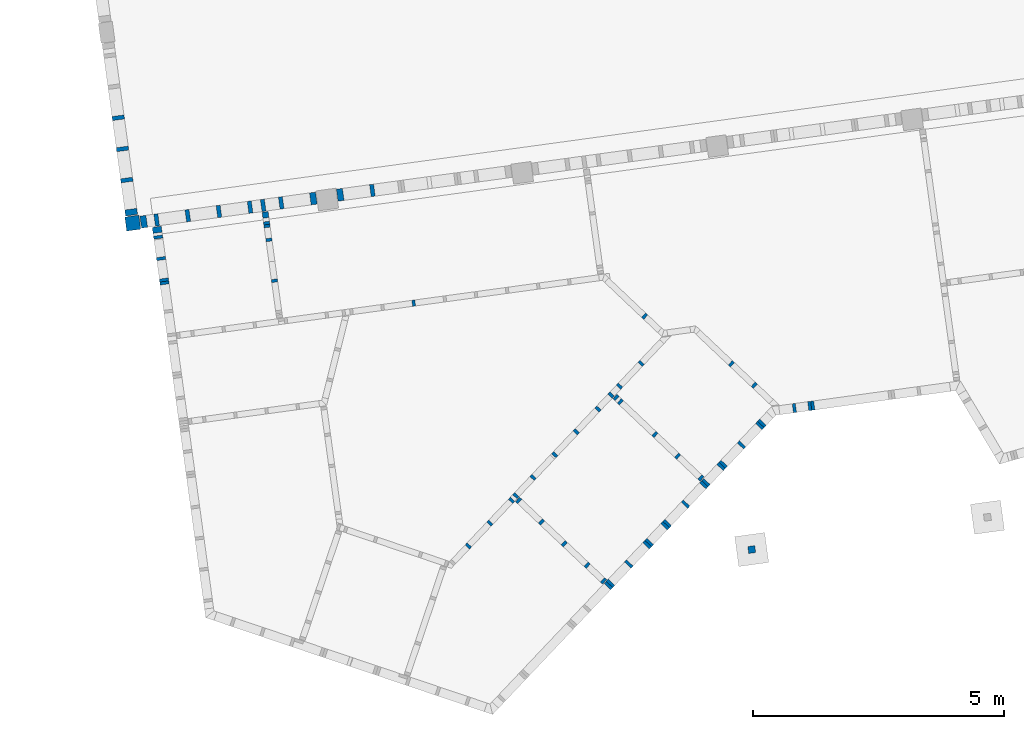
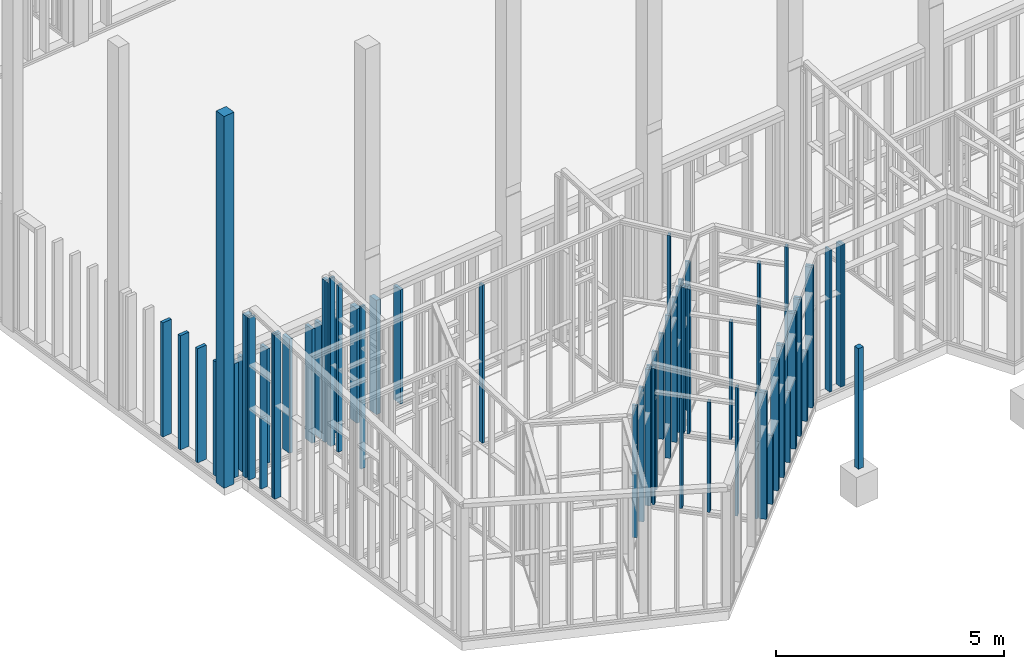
# One storey, part 2 of 24: 69 columns.
"""IFC2X3 building model written with IfcOpenShell, lengths in metres."""

from ifc_helpers import new_model, entity, si_unit, converted_unit, derived_unit, money_unit, direction, frame, origin_with_axes, origin_2d_with_axis, place, context, subcontext, project, spatial, rectangle, extrude, material, type_object, element, save


model = new_model("IFC2X3")

# Units and contexts
model_context = context("Model", 3, precision=1e-05, world=origin_with_axes(), true_north=direction((0.0, 1.0)))
body_context = subcontext(model_context, "Body", "Model", "MODEL_VIEW")
ifc_project = project(units=[si_unit("LENGTHUNIT", "METRE"), si_unit("AREAUNIT", "SQUARE_METRE"), si_unit("VOLUMEUNIT", "CUBIC_METRE"), converted_unit("PLANEANGLEUNIT", "DEGREE", entity("IfcPlaneAngleMeasure", 0.0174532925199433), si_unit("PLANEANGLEUNIT", "RADIAN"), dimensions=[0, 0, 0, 0, 0, 0, 0]), money_unit("EUR"), converted_unit("TIMEUNIT", "Year", entity("IfcTimeMeasure", 31557600.0), si_unit("TIMEUNIT", "SECOND"), dimensions=[0, 0, 1, 0, 0, 0, 0]), si_unit("MASSUNIT", "GRAM", prefix="KILO"), si_unit("THERMODYNAMICTEMPERATUREUNIT", "DEGREE_CELSIUS"), si_unit("LUMINOUSINTENSITYUNIT", "LUMEN"), si_unit("ENERGYUNIT", "JOULE", prefix="MEGA"), derived_unit("THERMALCONDUCTANCEUNIT", [(si_unit("POWERUNIT", "WATT"), 1), (si_unit("LENGTHUNIT", "METRE"), -1), (si_unit("THERMODYNAMICTEMPERATUREUNIT", "KELVIN"), -1)]), derived_unit("SPECIFICHEATCAPACITYUNIT", [(si_unit("ENERGYUNIT", "JOULE"), 1), (si_unit("MASSUNIT", "GRAM", prefix="KILO"), -1), (si_unit("THERMODYNAMICTEMPERATUREUNIT", "KELVIN"), -1)]), derived_unit("MASSDENSITYUNIT", [(si_unit("MASSUNIT", "GRAM", prefix="KILO"), 1), (si_unit("VOLUMEUNIT", "CUBIC_METRE"), -1)])], contexts=[model_context])

# Site, building, storey
site_placement = place(None, origin_with_axes())
site = spatial("IfcSite", under=ifc_project, at=site_placement, Name="Gelände", CompositionType="ELEMENT")
building_placement = place(site_placement, origin_with_axes())
building = spatial("IfcBuilding", under=site, at=building_placement, Name="Gebäude", CompositionType="ELEMENT")
storey_placement = place(building_placement, origin_with_axes())
storey = spatial("IfcBuildingStorey", under=building, at=storey_placement, Name="EG", CompositionType="ELEMENT", Elevation=0.0)

# Columns
ifc_material_1 = material(Name="Holz, Bauholz")
column_type_1 = type_object("IfcColumnType", Name="Holz, Bauholz 140 x 140", PredefinedType="NOTDEFINED")
column_1_placement = place(storey_placement, frame((98.90209812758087, -157.5066318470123, -0.09999999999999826), z_axis=(0.0, 0.0, 1.0), x_axis=(0.9907484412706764, 0.135711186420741, 0.0)))
element("IfcColumn", 1, at=column_1_placement, inside=storey, type_object=column_type_1, material=ifc_material_1, Name="Stütze-010", context=body_context, shape_type="SweptSolid", body=[
    extrude(rectangle(XDim=0.14, YDim=0.14, at=origin_2d_with_axis()), frame((0.0, 0.0, 0.0), z_axis=(0.0, 0.0, -1.0), x_axis=(-1.0, 0.0, 0.0)), (0.0, 0.0, -1.0), 3.231537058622),
])
ifc_material_2 = material(Name="Bauholz")
column_type_2 = type_object("IfcColumnType", Name="Bauholz 80 x 240", PredefinedType="NOTDEFINED")
for number, where, z_axis, x_axis in (
    (2, (86.30412056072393, -148.919752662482, -0.02800000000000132), (0.0, 0.0, 1.0), (0.1357111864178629, -0.9907484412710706, 0.0)),
    (3, (86.3889400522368, -149.5389704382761, -0.02800000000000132), (0.0, 0.0, 1.0), (0.1357111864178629, -0.9907484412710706, 0.0)),
    (4, (86.47375954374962, -150.1581882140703, -0.02800000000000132), (0.0, 0.0, 1.0), (0.1357111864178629, -0.9907484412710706, 0.0)),
):
    element("IfcColumn", number, at=place(storey_placement, frame(where, z_axis=z_axis, x_axis=x_axis)), inside=storey, type_object=column_type_2, material=ifc_material_2, Name="Stütze-018", context=body_context, shape_type="SweptSolid", body=[
        extrude(rectangle(XDim=0.08, YDim=0.24, at=origin_2d_with_axis()), origin_with_axes(), (0.0, 0.0, 1.0), 3.059999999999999),
    ])
for number, where, z_axis, x_axis in (
    (5, (88.30668905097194, -150.7822123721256, -0.02800000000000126), (0.0, 0.0, 1.0), (0.9907484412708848, 0.1357111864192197, 0.0)),
    (6, (87.68747127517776, -150.8670318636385, -0.02800000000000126), (0.0, 0.0, 1.0), (0.9907484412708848, 0.1357111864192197, 0.0)),
    (7, (88.92590682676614, -150.6973928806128, -0.02800000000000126), (0.0, 0.0, 1.0), (0.9907484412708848, 0.1357111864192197, 0.0)),
    (8, (89.18660687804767, -150.6616825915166, -0.0280000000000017), (0.0, 0.0, 1.0), (0.9907484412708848, 0.1357111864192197, 0.0)),
    (9, (89.54512460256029, -150.6125733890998, -0.02800000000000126), (0.0, 0.0, 1.0), (0.9907484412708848, 0.1357111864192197, 0.0)),
    (10, (91.35819567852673, -150.3642217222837, -0.02800000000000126), (0.0, 0.0, 1.0), (0.9907484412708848, 0.1357111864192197, 0.0)),
    (11, (87.06825349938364, -150.9518513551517, -0.0280000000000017), (0.0, 0.0, 1.0), (0.9907484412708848, 0.1357111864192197, 0.0)),
):
    element("IfcColumn", number, at=place(storey_placement, frame(where, z_axis=z_axis, x_axis=x_axis)), inside=storey, type_object=column_type_2, material=ifc_material_2, Name="Stütze-018", context=body_context, shape_type="SweptSolid", body=[
        extrude(rectangle(XDim=0.08, YDim=0.24, at=origin_2d_with_axis()), origin_with_axes(), (0.0, 0.0, 1.0), 3.059999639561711),
    ])
column_type_3 = type_object("IfcColumnType", Name="Bauholz 60 x 120", PredefinedType="NOTDEFINED")
column_2_placement = place(storey_placement, frame((89.25500644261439, -151.0136562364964, -0.04300000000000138), z_axis=(0.0, 0.0, 1.0), x_axis=(-0.1357111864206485, 0.9907484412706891, 0.0)))
element("IfcColumn", 12, at=column_2_placement, inside=storey, type_object=column_type_3, material=ifc_material_2, Name="Stütze-018", context=body_context, shape_type="SweptSolid", body=[
    extrude(rectangle(XDim=0.06, YDim=0.12, at=origin_2d_with_axis()), frame((0.0, 0.0, 0.0), z_axis=(0.0, 0.0, -1.0), x_axis=(-1.0, 0.0, 0.0)), (0.0, 0.0, -1.0), 4.33964893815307),
])
column_3_placement = place(storey_placement, frame((96.77352405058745, -152.8655992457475, -0.04300000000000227), z_axis=(0.0, 0.0, 1.0), x_axis=(-0.7262463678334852, 0.6874345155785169, 0.0)))
element("IfcColumn", 13, at=column_3_placement, inside=storey, type_object=column_type_3, material=ifc_material_2, Name="Stütze-018", context=body_context, shape_type="SweptSolid", body=[
    extrude(rectangle(XDim=0.06, YDim=0.12, at=origin_2d_with_axis()), frame((0.0, 0.0, 0.0), z_axis=(0.0, 0.0, -1.0), x_axis=(-1.0, 0.0, 0.0)), (0.0, 0.0, -1.0), 4.114087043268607),
])
column_4_placement = place(storey_placement, frame((98.49820390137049, -153.8116723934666, -0.0430000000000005), z_axis=(0.0, 0.0, 1.0), x_axis=(-0.7262467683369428, 0.6874340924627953, 0.0)))
element("IfcColumn", 14, at=column_4_placement, inside=storey, type_object=column_type_3, material=ifc_material_2, Name="Stütze-018", context=body_context, shape_type="SweptSolid", body=[
    extrude(rectangle(XDim=0.06, YDim=0.12, at=origin_2d_with_axis()), frame((0.0, 0.0, 0.0), z_axis=(0.0, 0.0, -1.0), x_axis=(-1.0, 0.0, 0.0)), (0.0, 0.0, -1.0), 3.337346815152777),
])
column_5_placement = place(storey_placement, frame((98.95210813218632, -154.2413187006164, -0.0430000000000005), z_axis=(0.0, 0.0, 1.0), x_axis=(-0.7262467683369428, 0.6874340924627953, 0.0)))
element("IfcColumn", 15, at=column_5_placement, inside=storey, type_object=column_type_3, material=ifc_material_2, Name="Stütze-018", context=body_context, shape_type="SweptSolid", body=[
    extrude(rectangle(XDim=0.06, YDim=0.12, at=origin_2d_with_axis()), frame((0.0, 0.0, 0.0), z_axis=(0.0, 0.0, -1.0), x_axis=(-1.0, 0.0, 0.0)), (0.0, 0.0, -1.0), 3.880978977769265),
])
column_6_placement = place(storey_placement, frame((92.18023482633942, -152.6065400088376, -0.04300000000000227), z_axis=(0.0, 0.0, 1.0), x_axis=(-0.9907484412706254, -0.1357111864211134, 0.0)))
element("IfcColumn", 16, at=column_6_placement, inside=storey, type_object=column_type_3, material=ifc_material_2, Name="Stütze-018", context=body_context, shape_type="SweptSolid", body=[
    extrude(rectangle(XDim=0.06, YDim=0.12, at=origin_2d_with_axis()), frame((0.0, 0.0, 0.0), z_axis=(0.0, 0.0, -1.0), x_axis=(-1.0, 0.0, 0.0)), (0.0, 0.0, -1.0), 4.235197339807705),
])
column_7_placement = place(storey_placement, frame((89.30082705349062, -151.3481658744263, -0.04300000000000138), z_axis=(0.0, 0.0, 1.0), x_axis=(-0.1357111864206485, 0.9907484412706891, 0.0)))
element("IfcColumn", 17, at=column_7_placement, inside=storey, type_object=column_type_3, material=ifc_material_2, Name="Stütze-018", context=body_context, shape_type="SweptSolid", body=[
    extrude(rectangle(XDim=0.06, YDim=0.12, at=origin_2d_with_axis()), frame((0.0, 0.0, 0.0), z_axis=(0.0, 0.0, -1.0), x_axis=(-1.0, 0.0, 0.0)), (0.0, 0.0, -1.0), 4.468369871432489),
])
column_8_placement = place(storey_placement, frame((89.41211022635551, -152.160579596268, -0.04300000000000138), z_axis=(0.0, 0.0, 1.0), x_axis=(-0.1357111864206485, 0.9907484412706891, 0.0)))
element("IfcColumn", 18, at=column_8_placement, inside=storey, type_object=column_type_3, material=ifc_material_2, Name="Stütze-018", context=body_context, shape_type="SweptSolid", body=[
    extrude(rectangle(XDim=0.06, YDim=0.12, at=origin_2d_with_axis()), frame((0.0, 0.0, 0.0), z_axis=(0.0, 0.0, -1.0), x_axis=(-1.0, 0.0, 0.0)), (0.0, 0.0, -1.0), 4.353126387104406),
])
column_9_placement = place(storey_placement, frame((96.27324084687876, -154.2578095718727, -0.04300000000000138), z_axis=(0.0, 0.0, 1.0), x_axis=(-0.6874340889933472, -0.7262467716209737, 0.0)))
element("IfcColumn", 19, at=column_9_placement, inside=storey, type_object=column_type_3, material=ifc_material_2, Name="Stütze-018", context=body_context, shape_type="SweptSolid", body=[
    extrude(rectangle(XDim=0.06, YDim=0.12, at=origin_2d_with_axis()), frame((0.0, 0.0, 0.0), z_axis=(0.0, 0.0, -1.0), x_axis=(-1.0, 0.0, 0.0)), (0.0, 0.0, -1.0), 3.929384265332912),
])
column_10_placement = place(storey_placement, frame((96.10539146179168, -154.4351357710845, -0.04300000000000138), z_axis=(0.0, 0.0, 1.0), x_axis=(-0.6874340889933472, -0.7262467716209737, 0.0)))
element("IfcColumn", 20, at=column_10_placement, inside=storey, type_object=column_type_3, material=ifc_material_2, Name="Stütze-018", context=body_context, shape_type="SweptSolid", body=[
    extrude(rectangle(XDim=0.06, YDim=0.12, at=origin_2d_with_axis()), frame((0.0, 0.0, 0.0), z_axis=(0.0, 0.0, -1.0), x_axis=(-1.0, 0.0, 0.0)), (0.0, 0.0, -1.0), 3.907894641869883),
])
column_11_placement = place(storey_placement, frame((95.84359454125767, -154.7117138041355, -0.04300000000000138), z_axis=(0.0, 0.0, 1.0), x_axis=(-0.6874340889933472, -0.7262467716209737, 0.0)))
element("IfcColumn", 21, at=column_11_placement, inside=storey, type_object=column_type_3, material=ifc_material_2, Name="Stütze-018", context=body_context, shape_type="SweptSolid", body=[
    extrude(rectangle(XDim=0.06, YDim=0.12, at=origin_2d_with_axis()), frame((0.0, 0.0, 0.0), z_axis=(0.0, 0.0, -1.0), x_axis=(-1.0, 0.0, 0.0)), (0.0, 0.0, -1.0), 3.874376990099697),
])
column_12_placement = place(storey_placement, frame((94.98430193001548, -155.6195222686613, 0.8919999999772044), z_axis=(0.0, 0.0, 1.0), x_axis=(-0.6874340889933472, -0.7262467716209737, 0.0)))
element("IfcColumn", 22, at=column_12_placement, inside=storey, type_object=column_type_3, material=ifc_material_2, Name="Stütze-018", context=body_context, shape_type="SweptSolid", body=[
    extrude(rectangle(XDim=0.06, YDim=0.12, at=origin_2d_with_axis()), frame((0.0, 0.0, 0.0), z_axis=(0.0, 0.0, -1.0), x_axis=(-1.0, 0.0, 0.0)), (0.0, 0.0, -1.0), 2.82936243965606),
])
column_13_placement = place(storey_placement, frame((94.55465562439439, -156.0734265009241, -0.04300000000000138), z_axis=(0.0, 0.0, 1.0), x_axis=(-0.6874340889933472, -0.7262467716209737, 0.0)))
element("IfcColumn", 23, at=column_13_placement, inside=storey, type_object=column_type_3, material=ifc_material_2, Name="Stütze-018", context=body_context, shape_type="SweptSolid", body=[
    extrude(rectangle(XDim=0.06, YDim=0.12, at=origin_2d_with_axis()), frame((0.0, 0.0, 0.0), z_axis=(0.0, 0.0, -1.0), x_axis=(-1.0, 0.0, 0.0)), (0.0, 0.0, -1.0), 3.709355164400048),
])
column_14_placement = place(storey_placement, frame((95.41394823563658, -155.1656180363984, -0.04300000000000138), z_axis=(0.0, 0.0, 1.0), x_axis=(-0.6874340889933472, -0.7262467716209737, 0.0)))
element("IfcColumn", 24, at=column_14_placement, inside=storey, type_object=column_type_3, material=ifc_material_2, Name="Stütze-018", context=body_context, shape_type="SweptSolid", body=[
    extrude(rectangle(XDim=0.06, YDim=0.12, at=origin_2d_with_axis()), frame((0.0, 0.0, 0.0), z_axis=(0.0, 0.0, -1.0), x_axis=(-1.0, 0.0, 0.0)), (0.0, 0.0, -1.0), 3.81936971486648),
])
column_15_placement = place(storey_placement, frame((94.1250093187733, -156.527330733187, -0.04300000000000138), z_axis=(0.0, 0.0, 1.0), x_axis=(-0.6874340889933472, -0.7262467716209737, 0.0)))
element("IfcColumn", 25, at=column_15_placement, inside=storey, type_object=column_type_3, material=ifc_material_2, Name="Stütze-018", context=body_context, shape_type="SweptSolid", body=[
    extrude(rectangle(XDim=0.06, YDim=0.12, at=origin_2d_with_axis()), frame((0.0, 0.0, 0.0), z_axis=(0.0, 0.0, -1.0), x_axis=(-1.0, 0.0, 0.0)), (0.0, 0.0, -1.0), 3.654347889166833),
])
column_16_placement = place(storey_placement, frame((96.70288715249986, -153.8039053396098, -0.04300000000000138), z_axis=(0.0, 0.0, 1.0), x_axis=(-0.6874340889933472, -0.7262467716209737, 0.0)))
element("IfcColumn", 26, at=column_16_placement, inside=storey, type_object=column_type_3, material=ifc_material_2, Name="Stütze-018", context=body_context, shape_type="SweptSolid", body=[
    extrude(rectangle(XDim=0.06, YDim=0.12, at=origin_2d_with_axis()), frame((0.0, 0.0, 0.0), z_axis=(0.0, 0.0, -1.0), x_axis=(-1.0, 0.0, 0.0)), (0.0, 0.0, -1.0), 3.98439154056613),
])
column_17_placement = place(storey_placement, frame((93.6953630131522, -156.9812349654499, -0.04300000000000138), z_axis=(0.0, 0.0, 1.0), x_axis=(-0.6874340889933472, -0.7262467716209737, 0.0)))
element("IfcColumn", 27, at=column_17_placement, inside=storey, type_object=column_type_3, material=ifc_material_2, Name="Stütze-018", context=body_context, shape_type="SweptSolid", body=[
    extrude(rectangle(XDim=0.06, YDim=0.12, at=origin_2d_with_axis()), frame((0.0, 0.0, 0.0), z_axis=(0.0, 0.0, -1.0), x_axis=(-1.0, 0.0, 0.0)), (0.0, 0.0, -1.0), 3.599340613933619),
])
column_18_placement = place(storey_placement, frame((93.26571670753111, -157.4351391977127, -0.04300000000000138), z_axis=(0.0, 0.0, 1.0), x_axis=(-0.6874340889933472, -0.7262467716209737, 0.0)))
element("IfcColumn", 28, at=column_18_placement, inside=storey, type_object=column_type_3, material=ifc_material_2, Name="Stütze-018", context=body_context, shape_type="SweptSolid", body=[
    extrude(rectangle(XDim=0.06, YDim=0.12, at=origin_2d_with_axis()), frame((0.0, 0.0, 0.0), z_axis=(0.0, 0.0, -1.0), x_axis=(-1.0, 0.0, 0.0)), (0.0, 0.0, -1.0), 3.544333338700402),
])
column_19_placement = place(storey_placement, frame((94.26714347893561, -156.529913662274, -0.0430000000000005), z_axis=(0.0, 0.0, 1.0), x_axis=(-0.7262467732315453, 0.6874340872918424, 0.0)))
element("IfcColumn", 29, at=column_19_placement, inside=storey, type_object=column_type_3, material=ifc_material_2, Name="Stütze-018", context=body_context, shape_type="SweptSolid", body=[
    extrude(rectangle(XDim=0.06, YDim=0.12, at=origin_2d_with_axis()), frame((0.0, 0.0, 0.0), z_axis=(0.0, 0.0, -1.0), x_axis=(-1.0, 0.0, 0.0)), (0.0, 0.0, -1.0), 3.651669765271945),
])
column_20_placement = place(storey_placement, frame((94.72104772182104, -156.9595599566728, -0.0430000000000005), z_axis=(0.0, 0.0, 1.0), x_axis=(-0.7262467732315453, 0.6874340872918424, 0.0)))
element("IfcColumn", 30, at=column_20_placement, inside=storey, type_object=column_type_3, material=ifc_material_2, Name="Stütze-018", context=body_context, shape_type="SweptSolid", body=[
    extrude(rectangle(XDim=0.06, YDim=0.12, at=origin_2d_with_axis()), frame((0.0, 0.0, 0.0), z_axis=(0.0, 0.0, -1.0), x_axis=(-1.0, 0.0, 0.0)), (0.0, 0.0, -1.0), 2.957614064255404),
])
column_21_placement = place(storey_placement, frame((95.62885618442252, -157.8188525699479, -0.0430000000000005), z_axis=(0.0, 0.0, 1.0), x_axis=(-0.7262467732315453, 0.6874340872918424, 0.0)))
element("IfcColumn", 31, at=column_21_placement, inside=storey, type_object=column_type_3, material=ifc_material_2, Name="Stütze-018", context=body_context, shape_type="SweptSolid", body=[
    extrude(rectangle(XDim=0.06, YDim=0.12, at=origin_2d_with_axis()), frame((0.0, 0.0, 0.0), z_axis=(0.0, 0.0, -1.0), x_axis=(-1.0, 0.0, 0.0)), (0.0, 0.0, -1.0), 3.44622522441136),
])
column_22_placement = place(storey_placement, frame((95.95560735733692, -158.1281412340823, -0.0430000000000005), z_axis=(0.0, 0.0, 1.0), x_axis=(-0.7262467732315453, 0.6874340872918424, 0.0)))
element("IfcColumn", 32, at=column_22_placement, inside=storey, type_object=column_type_3, material=ifc_material_2, Name="Stütze-018", context=body_context, shape_type="SweptSolid", body=[
    extrude(rectangle(XDim=0.06, YDim=0.12, at=origin_2d_with_axis()), frame((0.0, 0.0, 0.0), z_axis=(0.0, 0.0, -1.0), x_axis=(-1.0, 0.0, 0.0)), (0.0, 0.0, -1.0), 3.396927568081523),
])
column_23_placement = place(storey_placement, frame((95.17495196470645, -157.3892062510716, -0.0430000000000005), z_axis=(0.0, 0.0, 1.0), x_axis=(-0.7262467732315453, 0.6874340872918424, 0.0)))
element("IfcColumn", 33, at=column_23_placement, inside=storey, type_object=column_type_3, material=ifc_material_2, Name="Stütze-018", context=body_context, shape_type="SweptSolid", body=[
    extrude(rectangle(XDim=0.06, YDim=0.12, at=origin_2d_with_axis()), frame((0.0, 0.0, 0.0), z_axis=(0.0, 0.0, -1.0), x_axis=(-1.0, 0.0, 0.0)), (0.0, 0.0, -1.0), 2.957614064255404),
])
column_24_placement = place(storey_placement, frame((96.20227045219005, -154.4855289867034, -0.04300000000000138), z_axis=(0.0, 0.0, 1.0), x_axis=(-0.7262467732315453, 0.6874340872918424, 0.0)))
element("IfcColumn", 34, at=column_24_placement, inside=storey, type_object=column_type_3, material=ifc_material_2, Name="Stütze-018", context=body_context, shape_type="SweptSolid", body=[
    extrude(rectangle(XDim=0.06, YDim=0.12, at=origin_2d_with_axis()), frame((0.0, 0.0, 0.0), z_axis=(0.0, 0.0, -1.0), x_axis=(-1.0, 0.0, 0.0)), (0.0, 0.0, -1.0), 3.899422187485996),
])
column_25_placement = place(storey_placement, frame((96.97632421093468, -155.2182150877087, -0.04300000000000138), z_axis=(0.0, 0.0, 1.0), x_axis=(-0.7262467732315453, 0.6874340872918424, 0.0)))
element("IfcColumn", 35, at=column_25_placement, inside=storey, type_object=column_type_3, material=ifc_material_2, Name="Stütze-018", context=body_context, shape_type="SweptSolid", body=[
    extrude(rectangle(XDim=0.06, YDim=0.12, at=origin_2d_with_axis()), frame((0.0, 0.0, 0.0), z_axis=(0.0, 0.0, -1.0), x_axis=(-1.0, 0.0, 0.0)), (0.0, 0.0, -1.0), 3.155366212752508),
])
column_26_placement = place(storey_placement, frame((97.43022845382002, -155.6478613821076, -0.04300000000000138), z_axis=(0.0, 0.0, 1.0), x_axis=(-0.7262467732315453, 0.6874340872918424, 0.0)))
element("IfcColumn", 36, at=column_26_placement, inside=storey, type_object=column_type_3, material=ifc_material_2, Name="Stütze-018", context=body_context, shape_type="SweptSolid", body=[
    extrude(rectangle(XDim=0.06, YDim=0.12, at=origin_2d_with_axis()), frame((0.0, 0.0, 0.0), z_axis=(0.0, 0.0, -1.0), x_axis=(-1.0, 0.0, 0.0)), (0.0, 0.0, -1.0), 3.714158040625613),
])
column_27_placement = place(storey_placement, frame((96.29002099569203, -154.5685898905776, -0.04300000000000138), z_axis=(0.0, 0.0, 1.0), x_axis=(-0.7262467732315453, 0.6874340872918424, 0.0)))
element("IfcColumn", 37, at=column_27_placement, inside=storey, type_object=column_type_3, material=ifc_material_2, Name="Stütze-018", context=body_context, shape_type="SweptSolid", body=[
    extrude(rectangle(XDim=0.06, YDim=0.12, at=origin_2d_with_axis()), frame((0.0, 0.0, 0.0), z_axis=(0.0, 0.0, -1.0), x_axis=(-1.0, 0.0, 0.0)), (0.0, 0.0, -1.0), 3.886183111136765),
])
column_28_placement = place(storey_placement, frame((97.89073432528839, -156.0837565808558, -0.04300000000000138), z_axis=(0.0, 0.0, 1.0), x_axis=(-0.7262467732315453, 0.6874340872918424, 0.0)))
element("IfcColumn", 38, at=column_28_placement, inside=storey, type_object=column_type_3, material=ifc_material_2, Name="Stütze-018", context=body_context, shape_type="SweptSolid", body=[
    extrude(rectangle(XDim=0.06, YDim=0.12, at=origin_2d_with_axis()), frame((0.0, 0.0, 0.0), z_axis=(0.0, 0.0, -1.0), x_axis=(-1.0, 0.0, 0.0)), (0.0, 0.0, -1.0), 3.644680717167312),
])
column_29_placement = place(storey_placement, frame((94.21151053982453, -156.4359456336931, -0.04300000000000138), z_axis=(0.0, 0.0, 1.0), x_axis=(-0.6874340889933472, -0.7262467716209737, 0.0)))
element("IfcColumn", 39, at=column_29_placement, inside=storey, type_object=column_type_3, material=ifc_material_2, Name="Stütze-018", context=body_context, shape_type="SweptSolid", body=[
    extrude(rectangle(XDim=0.06, YDim=0.12, at=origin_2d_with_axis()), frame((0.0, 0.0, 0.0), z_axis=(0.0, 0.0, -1.0), x_axis=(-1.0, 0.0, 0.0)), (0.0, 0.0, -1.0), 3.665422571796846),
])
column_30_placement = place(storey_placement, frame((89.26314911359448, -151.0731011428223, -0.04300000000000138), z_axis=(0.0, 0.0, 1.0), x_axis=(-0.1357111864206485, 0.9907484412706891, 0.0)))
element("IfcColumn", 40, at=column_30_placement, inside=storey, type_object=column_type_3, material=ifc_material_2, Name="Stütze-018", context=body_context, shape_type="SweptSolid", body=[
    extrude(rectangle(XDim=0.06, YDim=0.12, at=origin_2d_with_axis()), frame((0.0, 0.0, 0.0), z_axis=(0.0, 0.0, -1.0), x_axis=(-1.0, 0.0, 0.0)), (0.0, 0.0, -1.0), 4.507388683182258),
])
column_type_4 = type_object("IfcColumnType", Name="Bauholz 60 x 180", PredefinedType="NOTDEFINED")
for number, where, z_axis, x_axis in (
    (41, (99.75069163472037, -154.6939045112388, -0.0430000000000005), (0.0, 0.0, 1.0), (0.9907484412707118, 0.1357111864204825, 0.0)),
    (42, (100.1157467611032, -154.6438998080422, -0.0430000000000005), (0.0, 0.0, 1.0), (0.9907484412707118, 0.1357111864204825, 0.0)),
):
    element("IfcColumn", number, at=place(storey_placement, frame(where, z_axis=z_axis, x_axis=x_axis)), inside=storey, type_object=column_type_4, material=ifc_material_2, Name="Stütze-018", context=body_context, shape_type="SweptSolid", body=[
        extrude(rectangle(XDim=0.06, YDim=0.18, at=origin_2d_with_axis()), origin_with_axes(), (0.0, 0.0, 1.0), 3.800160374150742),
    ])
column_31_placement = place(storey_placement, frame((99.06381769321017, -155.0408230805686, -0.0430000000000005), z_axis=(0.0, 0.0, 1.0), x_axis=(0.6874340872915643, 0.7262467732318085, 0.0)))
element("IfcColumn", 43, at=column_31_placement, inside=storey, type_object=column_type_4, material=ifc_material_2, Name="Stütze-018", context=body_context, shape_type="SweptSolid", body=[
    extrude(rectangle(XDim=0.06, YDim=0.18, at=origin_2d_with_axis()), origin_with_axes(), (0.0, 0.0, 1.0), 3.767135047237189),
])
column_32_placement = place(storey_placement, frame((99.10506373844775, -154.9972482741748, -0.0430000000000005), z_axis=(0.0, 0.0, 1.0), x_axis=(0.6874340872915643, 0.7262467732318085, 0.0)))
element("IfcColumn", 44, at=column_32_placement, inside=storey, type_object=column_type_4, material=ifc_material_2, Name="Stütze-018", context=body_context, shape_type="SweptSolid", body=[
    extrude(rectangle(XDim=0.06, YDim=0.18, at=origin_2d_with_axis()), origin_with_axes(), (0.0, 0.0, 1.0), 3.772415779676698),
])
column_33_placement = place(storey_placement, frame((98.29389151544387, -155.8542194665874, -0.0430000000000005), z_axis=(0.0, 0.0, 1.0), x_axis=(0.6874340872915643, 0.7262467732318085, 0.0)))
element("IfcColumn", 45, at=column_33_placement, inside=storey, type_object=column_type_4, material=ifc_material_2, Name="Stütze-018", context=body_context, shape_type="SweptSolid", body=[
    extrude(rectangle(XDim=0.06, YDim=0.18, at=origin_2d_with_axis()), origin_with_axes(), (0.0, 0.0, 1.0), 3.668561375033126),
])
column_34_placement = place(storey_placement, frame((98.33513756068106, -155.8106446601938, -0.0430000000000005), z_axis=(0.0, 0.0, 1.0), x_axis=(0.6874340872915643, 0.7262467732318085, 0.0)))
element("IfcColumn", 46, at=column_34_placement, inside=storey, type_object=column_type_4, material=ifc_material_2, Name="Stütze-018", context=body_context, shape_type="SweptSolid", body=[
    extrude(rectangle(XDim=0.06, YDim=0.18, at=origin_2d_with_axis()), origin_with_axes(), (0.0, 0.0, 1.0), 3.673842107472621),
])
column_35_placement = place(storey_placement, frame((97.99049620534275, -156.1747445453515, -0.0430000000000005), z_axis=(0.0, 0.0, 1.0), x_axis=(0.6874340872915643, 0.7262467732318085, 0.0)))
element("IfcColumn", 47, at=column_35_placement, inside=storey, type_object=column_type_4, material=ifc_material_2, Name="Stütze-018", context=body_context, shape_type="SweptSolid", body=[
    extrude(rectangle(XDim=0.06, YDim=0.18, at=origin_2d_with_axis()), origin_with_axes(), (0.0, 0.0, 1.0), 3.629717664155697),
])
column_36_placement = place(storey_placement, frame((97.94925016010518, -156.2183193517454, -0.0430000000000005), z_axis=(0.0, 0.0, 1.0), x_axis=(0.6874340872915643, 0.7262467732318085, 0.0)))
element("IfcColumn", 48, at=column_36_placement, inside=storey, type_object=column_type_4, material=ifc_material_2, Name="Stütze-018", context=body_context, shape_type="SweptSolid", body=[
    extrude(rectangle(XDim=0.06, YDim=0.18, at=origin_2d_with_axis()), origin_with_axes(), (0.0, 0.0, 1.0), 3.624436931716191),
])
column_37_placement = place(storey_placement, frame((97.17932398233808, -157.0317157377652, -0.0430000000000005), z_axis=(0.0, 0.0, 1.0), x_axis=(0.6874340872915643, 0.7262467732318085, 0.0)))
element("IfcColumn", 49, at=column_37_placement, inside=storey, type_object=column_type_4, material=ifc_material_2, Name="Stütze-018", context=body_context, shape_type="SweptSolid", body=[
    extrude(rectangle(XDim=0.06, YDim=0.18, at=origin_2d_with_axis()), origin_with_axes(), (0.0, 0.0, 1.0), 3.525863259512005),
])
column_38_placement = place(storey_placement, frame((100.0563018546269, -154.6520424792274, -0.0430000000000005), z_axis=(0.0, 0.0, 1.0), x_axis=(0.9907484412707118, 0.1357111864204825, 0.0)))
element("IfcColumn", 50, at=column_38_placement, inside=storey, type_object=column_type_4, material=ifc_material_2, Name="Stütze-018", context=body_context, shape_type="SweptSolid", body=[
    extrude(rectangle(XDim=0.06, YDim=0.18, at=origin_2d_with_axis()), origin_with_axes(), (0.0, 0.0, 1.0), 3.800160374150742),
])
column_39_placement = place(storey_placement, frame((97.22057002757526, -156.9881409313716, -0.0430000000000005), z_axis=(0.0, 0.0, 1.0), x_axis=(0.6874340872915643, 0.7262467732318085, 0.0)))
element("IfcColumn", 51, at=column_39_placement, inside=storey, type_object=column_type_4, material=ifc_material_2, Name="Stütze-018", context=body_context, shape_type="SweptSolid", body=[
    extrude(rectangle(XDim=0.06, YDim=0.18, at=origin_2d_with_axis()), origin_with_axes(), (0.0, 0.0, 1.0), 3.531143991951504),
])
column_40_placement = place(storey_placement, frame((96.8218582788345, -157.4093640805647, -0.0430000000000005), z_axis=(0.0, 0.0, 1.0), x_axis=(0.6874340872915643, 0.7262467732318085, 0.0)))
element("IfcColumn", 52, at=column_40_placement, inside=storey, type_object=column_type_4, material=ifc_material_2, Name="Stütze-018", context=body_context, shape_type="SweptSolid", body=[
    extrude(rectangle(XDim=0.06, YDim=0.18, at=origin_2d_with_axis()), origin_with_axes(), (0.0, 0.0, 1.0), 3.480096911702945),
])
column_41_placement = place(storey_placement, frame((96.0519320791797, -158.2227604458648, -0.0430000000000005), z_axis=(0.0, 0.0, 1.0), x_axis=(0.6874340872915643, 0.7262467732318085, 0.0)))
element("IfcColumn", 53, at=column_41_placement, inside=storey, type_object=column_type_4, material=ifc_material_2, Name="Stütze-018", context=body_context, shape_type="SweptSolid", body=[
    extrude(rectangle(XDim=0.06, YDim=0.18, at=origin_2d_with_axis()), origin_with_axes(), (0.0, 0.0, 1.0), 3.38152323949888),
])
column_42_placement = place(storey_placement, frame((96.0931781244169, -158.1791856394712, -0.0430000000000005), z_axis=(0.0, 0.0, 1.0), x_axis=(0.6874340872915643, 0.7262467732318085, 0.0)))
element("IfcColumn", 54, at=column_42_placement, inside=storey, type_object=column_type_4, material=ifc_material_2, Name="Stütze-018", context=body_context, shape_type="SweptSolid", body=[
    extrude(rectangle(XDim=0.06, YDim=0.18, at=origin_2d_with_axis()), origin_with_axes(), (0.0, 0.0, 1.0), 3.386803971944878),
])
column_43_placement = place(storey_placement, frame((96.86310432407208, -157.3657892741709, -0.0430000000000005), z_axis=(0.0, 0.0, 1.0), x_axis=(0.6874340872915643, 0.7262467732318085, 0.0)))
element("IfcColumn", 55, at=column_43_placement, inside=storey, type_object=column_type_4, material=ifc_material_2, Name="Stütze-018", context=body_context, shape_type="SweptSolid", body=[
    extrude(rectangle(XDim=0.06, YDim=0.18, at=origin_2d_with_axis()), origin_with_axes(), (0.0, 0.0, 1.0), 3.485377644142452),
])
column_44_placement = place(storey_placement, frame((96.45751819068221, -157.7942748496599, -0.04300000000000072), z_axis=(0.0, 0.0, 1.0), x_axis=(0.6874340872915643, 0.7262467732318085, 0.0)))
element("IfcColumn", 56, at=column_44_placement, inside=storey, type_object=column_type_4, material=ifc_material_2, Name="Stütze-018", context=body_context, shape_type="SweptSolid", body=[
    extrude(rectangle(XDim=0.06, YDim=0.18, at=origin_2d_with_axis()), origin_with_axes(), (0.0, 0.0, 1.0), 1.843054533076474),
])
for number, where, z_axis, x_axis in (
    (57, (97.58491009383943, -156.603230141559, -0.04300000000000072), (0.0, 0.0, 1.0), (0.6874340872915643, 0.7262467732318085, 0.0)),
    (58, (98.69947762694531, -155.4257338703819, -0.04300000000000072), (0.0, 0.0, 1.0), (0.6874340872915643, 0.7262467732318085, 0.0)),
):
    element("IfcColumn", number, at=place(storey_placement, frame(where, z_axis=z_axis, x_axis=x_axis)), inside=storey, type_object=column_type_4, material=ifc_material_2, Name="Stütze-018", context=body_context, shape_type="SweptSolid", body=[
        extrude(rectangle(XDim=0.06, YDim=0.18, at=origin_2d_with_axis()), origin_with_axes(), (0.0, 0.0, 1.0), 1.883000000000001),
    ])
column_45_placement = place(storey_placement, frame((87.21478754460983, -152.1452929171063, -0.04300000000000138), z_axis=(0.0, 0.0, 1.0), x_axis=(0.1357111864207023, -0.9907484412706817, 0.0)))
element("IfcColumn", 59, at=column_45_placement, inside=storey, type_object=column_type_4, material=ifc_material_2, Name="Stütze-018", context=body_context, shape_type="SweptSolid", body=[
    extrude(rectangle(XDim=0.06, YDim=0.18, at=origin_2d_with_axis()), origin_with_axes(), (0.0, 0.0, 1.0), 4.397164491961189),
])
column_46_placement = place(storey_placement, frame((87.22293021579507, -152.2047378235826, -0.04300000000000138), z_axis=(0.0, 0.0, 1.0), x_axis=(0.1357111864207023, -0.9907484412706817, 0.0)))
element("IfcColumn", 60, at=column_46_placement, inside=storey, type_object=column_type_4, material=ifc_material_2, Name="Stütze-018", context=body_context, shape_type="SweptSolid", body=[
    extrude(rectangle(XDim=0.06, YDim=0.18, at=origin_2d_with_axis()), origin_with_axes(), (0.0, 0.0, 1.0), 4.388732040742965),
])
column_47_placement = place(storey_placement, frame((87.09807592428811, -151.2932492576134, -0.04300000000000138), z_axis=(0.0, 0.0, 1.0), x_axis=(0.1357111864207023, -0.9907484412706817, 0.0)))
element("IfcColumn", 61, at=column_47_placement, inside=storey, type_object=column_type_4, material=ifc_material_2, Name="Stütze-018", context=body_context, shape_type="SweptSolid", body=[
    extrude(rectangle(XDim=0.06, YDim=0.18, at=origin_2d_with_axis()), origin_with_axes(), (0.0, 0.0, 1.0), 4.33964893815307),
])
column_48_placement = place(storey_placement, frame((87.15643173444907, -151.7192710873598, -0.04300000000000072), z_axis=(0.0, 0.0, 1.0), x_axis=(0.1357111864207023, -0.9907484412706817, 0.0)))
element("IfcColumn", 62, at=column_48_placement, inside=storey, type_object=column_type_4, material=ifc_material_2, Name="Stütze-018", context=body_context, shape_type="SweptSolid", body=[
    extrude(rectangle(XDim=0.06, YDim=0.18, at=origin_2d_with_axis()), origin_with_axes(), (0.0, 0.0, 1.0), 1.883000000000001),
])
column_type_5 = type_object("IfcColumnType", Name="Bauholz 120 x 240", PredefinedType="NOTDEFINED")
for number, where, z_axis, x_axis in (
    (63, (86.81136765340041, -150.9870391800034, -0.02800000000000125), (0.0, 0.0, 1.0), (0.9907484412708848, 0.1357111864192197, 0.0)),
    (64, (90.18415770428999, -150.5250396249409, -0.02800000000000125), (0.0, 0.0, 1.0), (0.9907484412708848, 0.1357111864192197, 0.0)),
):
    element("IfcColumn", number, at=place(storey_placement, frame(where, z_axis=z_axis, x_axis=x_axis)), inside=storey, type_object=column_type_5, material=ifc_material_2, Name="Stütze-018", context=body_context, shape_type="SweptSolid", body=[
        extrude(rectangle(XDim=0.1200007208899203, YDim=0.24, at=origin_2d_with_axis()), origin_with_axes(), (0.0, 0.0, 1.0), 3.059999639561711),
    ])
column_49_placement = place(storey_placement, frame((90.7191625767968, -150.4517554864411, -0.02800000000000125), z_axis=(0.0, 0.0, 1.0), x_axis=(0.9907484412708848, 0.1357111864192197, 0.0)))
element("IfcColumn", 65, at=column_49_placement, inside=storey, type_object=column_type_5, material=ifc_material_2, Name="Stütze-018", context=body_context, shape_type="SweptSolid", body=[
    extrude(rectangle(XDim=0.1200007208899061, YDim=0.24, at=origin_2d_with_axis()), origin_with_axes(), (0.0, 0.0, 1.0), 3.059999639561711),
])
column_50_placement = place(storey_placement, frame((86.56129325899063, -150.7972209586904, -0.02800000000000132), z_axis=(0.0, 0.0, 1.0), x_axis=(0.1357111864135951, -0.9907484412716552, 0.0)))
element("IfcColumn", 66, at=column_50_placement, inside=storey, type_object=column_type_5, material=ifc_material_2, Name="Stütze-018", context=body_context, shape_type="SweptSolid", body=[
    extrude(rectangle(XDim=0.12, YDim=0.24, at=origin_2d_with_axis()), origin_with_axes(), (0.0, 0.0, 1.0), 3.059999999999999),
])
column_type_6 = type_object("IfcColumnType", Name="Bauholz 120 x 180", PredefinedType="NOTDEFINED")
column_51_placement = place(storey_placement, frame((87.07808749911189, -151.1473253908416, -0.04300000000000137), z_axis=(0.0, 0.0, 1.0), x_axis=(0.1357111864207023, -0.9907484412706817, 0.0)))
element("IfcColumn", 67, at=column_51_placement, inside=storey, type_object=column_type_6, material=ifc_material_2, Name="Stütze-018", context=body_context, shape_type="SweptSolid", body=[
    extrude(rectangle(XDim=0.1200003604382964, YDim=0.18, at=origin_2d_with_axis()), origin_with_axes(), (0.0, 0.0, 1.0), 4.33964893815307),
])
ifc_material_3 = material(Name="Holz, Brettschichtholz")
column_type_7 = type_object("IfcColumnType", Name="Holz, Brettschichtholz 280 x 280", PredefinedType="NOTDEFINED")
column_52_placement = place(storey_placement, frame((86.59313121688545, -151.0149141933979, -0.1680000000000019), z_axis=(0.0, 0.0, 1.0), x_axis=(-0.9907484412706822, -0.1357111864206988, 0.0)))
element("IfcColumn", 68, at=column_52_placement, inside=storey, type_object=column_type_7, material=ifc_material_3, Name="Stütze-011", context=body_context, shape_type="SweptSolid", body=[
    extrude(rectangle(XDim=0.28, YDim=0.28, at=origin_2d_with_axis()), origin_with_axes(), (0.0, 0.0, 1.0), 9.960859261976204),
])
column_type_8 = type_object("IfcColumnType", Name="Bauholz 120 x 120", PredefinedType="NOTDEFINED")
column_53_placement = place(storey_placement, frame((89.2328855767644, -150.8521646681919, -0.04300000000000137), z_axis=(0.0, 0.0, 1.0), x_axis=(-0.1357111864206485, 0.9907484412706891, 0.0)))
element("IfcColumn", 69, at=column_53_placement, inside=storey, type_object=column_type_8, material=ifc_material_2, Name="Stütze-018", context=body_context, shape_type="SweptSolid", body=[
    extrude(rectangle(XDim=0.1200007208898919, YDim=0.12, at=origin_2d_with_axis()), frame((0.0, 0.0, 0.0), z_axis=(0.0, 0.0, -1.0), x_axis=(-1.0, 0.0, 0.0)), (0.0, 0.0, -1.0), 4.33964893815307),
])

save(model, "model.ifc")
